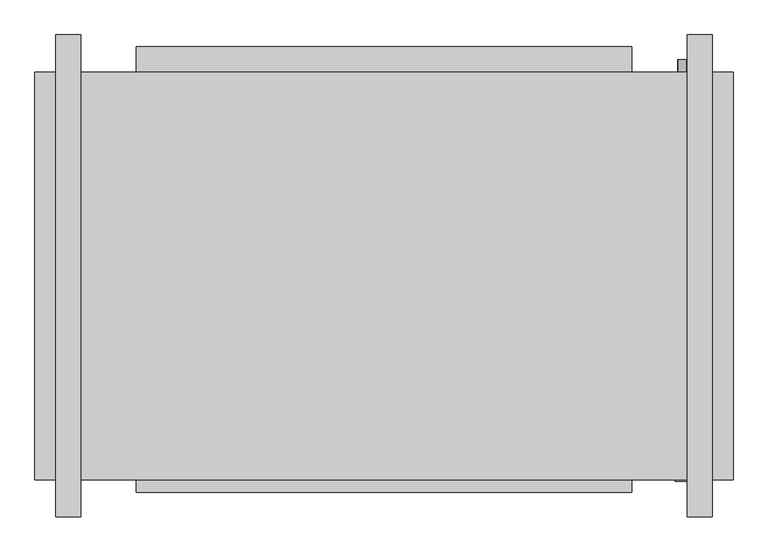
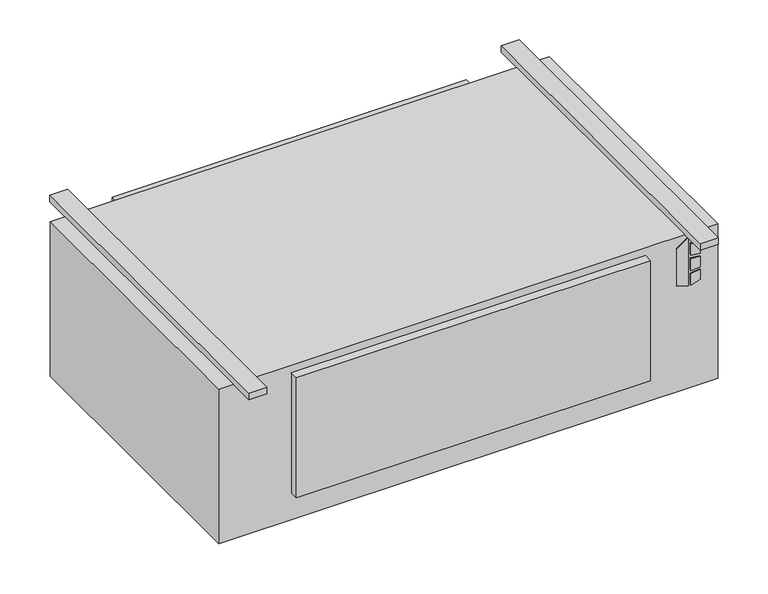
"""IFC4 building model written with IfcOpenShell, lengths in millimetres: proxy geometry, Concealed_High_Capacity_Horizontal_Cabinet_Fan_Coil_Unit_-_HXY_-_IEC_-_4-Pipe_RH_2022 : Size 16 - 277v/60Hz/1Ph - 6/2 Coil."""

from ifc_helpers import new_model, si_unit, point, frame, frame_2d, origin, origin_with_axes, place, context, project, spatial, polyline, circle_curve, trimmed, segment, composite_curve, outline, extrude, source, transform, mapped, element, save


def mechanical_equipment_969e5153(model_context):
    return source(origin(), model_context, "Body", "SweptSolid", [
        extrude(outline(polyline([(-142.4519297, 735.0868862), (-152.4, 767.2602728), (-10.2290756, 767.2602728), (-33.2510817, 735.0868862), (-142.4519297, 735.0868862)])), frame((0.0, -649.2875, 0.0), z_axis=(0.0, 1.0, 0.0), x_axis=(0.0, 0.0, 1.0)), (0.0, 0.0, 1.0), 3.175),
        extrude(outline(polyline([(-63.4526443, 774.0186058), (-66.6550368, 800.1), (-37.4261958, 800.1), (-29.3617807, 774.0186058), (-63.4526443, 774.0186058)])), frame((0.0, -649.2875, 0.0), z_axis=(0.0, 1.0, 0.0), x_axis=(0.0, 0.0, 1.0)), (0.0, 0.0, 1.0), 3.175),
        extrude(outline(polyline([(-115.3161712, 800.1), (-118.9816721, 774.0186058), (-152.4, 774.0186058), (-143.7657628, 800.1), (-115.3161712, 800.1)])), frame((0.0, -649.2875, 0.0), z_axis=(0.0, 1.0, 0.0), x_axis=(0.0, 0.0, 1.0)), (0.0, 0.0, 1.0), 3.175),
        extrude(outline(polyline([(-76.0010097, 800.1), (-73.7191834, 774.0186058), (-109.6567319, 774.0186058), (-106.9154669, 800.1), (-76.0010097, 800.1)])), frame((0.0, -649.2875, 0.0), z_axis=(0.0, 1.0, 0.0), x_axis=(0.0, 0.0, 1.0)), (0.0, 0.0, 1.0), 3.175),
        extrude(outline(composite_curve([segment(trimmed(circle_curve(frame_2d((-406.4, 749.3)), 9.525), [point((-406.4, 739.775))], [point((-406.4, 758.825))], False, "CARTESIAN"), True, "CONTINUOUS"), segment(trimmed(circle_curve(frame_2d((-406.4, 749.3)), 9.525), [point((-406.4, 758.825))], [point((-406.4, 739.775))], False, "CARTESIAN"), True, "CONTINUOUS")], self_intersect=False)), frame((0.0, 169.8625, 0.0), z_axis=(0.0, 1.0, 0.0), x_axis=(0.0, 0.0, 1.0)), (0.0, 0.0, 1.0), 25.4),
        extrude(outline(composite_curve([segment(trimmed(circle_curve(frame_2d((-330.2, 749.3)), 7.9375), [point((-330.2, 741.3625))], [point((-330.2, 757.2375))], False, "CARTESIAN"), True, "CONTINUOUS"), segment(trimmed(circle_curve(frame_2d((-330.2, 749.3)), 7.9375), [point((-330.2, 757.2375))], [point((-330.2, 741.3625))], False, "CARTESIAN"), True, "CONTINUOUS")], self_intersect=False)), frame((0.0, 169.8625, 0.0), z_axis=(0.0, 1.0, 0.0), x_axis=(0.0, 0.0, 1.0)), (0.0, 0.0, 1.0), 25.4),
        extrude(outline(composite_curve([segment(trimmed(circle_curve(frame_2d((-254.0, 749.3)), 7.9375), [point((-254.0, 741.3625))], [point((-254.0, 757.2375))], False, "CARTESIAN"), True, "CONTINUOUS"), segment(trimmed(circle_curve(frame_2d((-254.0, 749.3)), 7.9375), [point((-254.0, 757.2375))], [point((-254.0, 741.3625))], False, "CARTESIAN"), True, "CONTINUOUS")], self_intersect=False)), frame((0.0, 169.8625, 0.0), z_axis=(0.0, 1.0, 0.0), x_axis=(0.0, 0.0, 1.0)), (0.0, 0.0, 1.0), 25.4),
        extrude(outline(composite_curve([segment(trimmed(circle_curve(frame_2d((-177.8, 749.3)), 7.9375), [point((-177.8, 741.3625))], [point((-177.8, 757.2375))], False, "CARTESIAN"), True, "CONTINUOUS"), segment(trimmed(circle_curve(frame_2d((-177.8, 749.3)), 7.9375), [point((-177.8, 757.2375))], [point((-177.8, 741.3625))], False, "CARTESIAN"), True, "CONTINUOUS")], self_intersect=False)), frame((0.0, 169.8625, 0.0), z_axis=(0.0, 1.0, 0.0), x_axis=(0.0, 0.0, 1.0)), (0.0, 0.0, 1.0), 25.4),
        extrude(outline(composite_curve([segment(trimmed(circle_curve(frame_2d((-101.6, 749.3)), 7.9375), [point((-101.6, 741.3625))], [point((-101.6, 757.2375))], False, "CARTESIAN"), True, "CONTINUOUS"), segment(trimmed(circle_curve(frame_2d((-101.6, 749.3)), 7.9375), [point((-101.6, 757.2375))], [point((-101.6, 741.3625))], False, "CARTESIAN"), True, "CONTINUOUS")], self_intersect=False)), frame((0.0, 169.8625, 0.0), z_axis=(0.0, 1.0, 0.0), x_axis=(0.0, 0.0, 1.0)), (0.0, 0.0, 1.0), 25.4),
        extrude(outline(polyline([(850.9, 169.8625), (850.9, -646.1125), (-546.1, -646.1125), (-546.1, 169.8625), (850.9, 169.8625)])), frame((0.0, 0.0, -457.2), z_axis=(0.0, 0.0, 1.0), x_axis=(1.0, 0.0, 0.0)), (0.0, 0.0, 1.0), 457.2),
        extrude(outline(polyline([(-342.9, 220.6625), (647.7, 220.6625), (647.7, 169.8625), (-342.9, 169.8625), (-342.9, 220.6625)])), frame((0.0, 0.0, -377.825), z_axis=(0.0, 0.0, 1.0), x_axis=(1.0, 0.0, 0.0)), (0.0, 0.0, 1.0), 349.25),
        extrude(outline(polyline([(-454.025, 244.475), (-454.025, -720.725), (-504.825, -720.725), (-504.825, 244.475), (-454.025, 244.475)])), origin_with_axes(), (0.0, 0.0, 1.0), 19.05),
        extrude(outline(polyline([(809.625, 244.475), (809.625, -720.725), (758.825, -720.725), (758.825, 244.475), (809.625, 244.475)])), origin_with_axes(), (0.0, 0.0, 1.0), 19.05),
        extrude(outline(polyline([(647.7, -671.5125), (-342.9, -671.5125), (-342.9, -646.1125), (647.7, -646.1125), (647.7, -671.5125)])), frame((0.0, 0.0, -377.825), z_axis=(0.0, 0.0, 1.0), x_axis=(1.0, 0.0, 0.0)), (0.0, 0.0, 1.0), 355.6),
    ])


if __name__ == "__main__":
    model = new_model("IFC4")
    model_context = context("Model", 3, world=origin())
    ifc_project = project(units=[si_unit("LENGTHUNIT", "METRE", prefix="MILLI")], contexts=[model_context])
    site = spatial("IfcSite", under=ifc_project)
    building = spatial("IfcBuilding", under=site)
    placement = place(None, origin())
    mechanical_equipment_shape = mechanical_equipment_969e5153(model_context)
    element("IfcBuildingElementProxy", 1, Name="Concealed_High_Capacity_Horizontal_Cabinet_Fan_Coil_Unit_-_HXY_-_IEC_-_4-Pipe_RH_2022 : Size 16 - 277v/60Hz/1Ph - 6/2 Coil", ObjectType="Concealed_High_Capacity_Horizontal_Cabinet_Fan_Coil_Unit_-_HXY_-_IEC_-_4-Pipe_RH_2022 : Size 16 - 277v/60Hz/1Ph - 6/2 Coil", at=placement, inside=building, context=model_context, shape_type="MappedRepresentation", body=[
        mapped(mechanical_equipment_shape, transform((0.0, 0.0, 0.0), x_axis=(1.0, 0.0, 0.0), y_axis=(0.0, 1.0, 0.0), z_axis=(0.0, 0.0, 1.0))),
    ])
    save(model, "model.ifc")
